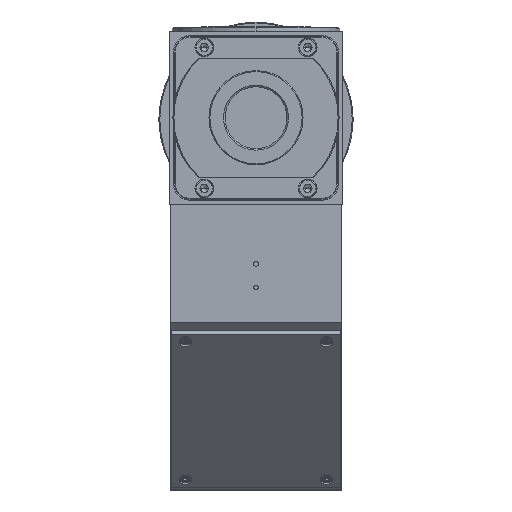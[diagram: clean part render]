
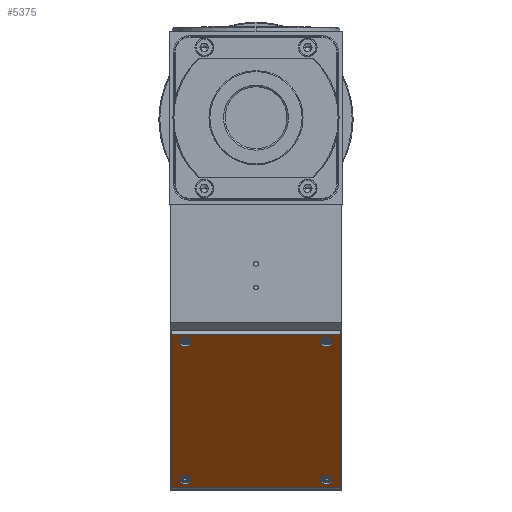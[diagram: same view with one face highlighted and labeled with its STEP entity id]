
A CAD part, top view. The second image highlights one B-rep face of the part: STEP entity #5375.
In plain terms, the highlighted planar face has unit normal (0, -0.707, 0.707).
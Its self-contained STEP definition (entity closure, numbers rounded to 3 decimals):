
#315 = DIRECTION ( 'NONE',  ( 0., -0.707, 0.707 ) ) ;
#334 = DIRECTION ( 'NONE',  ( 0., -0.707, 0.707 ) ) ;
#482 = CARTESIAN_POINT ( 'NONE',  ( 27., -69.003, -92.931 ) ) ;
#508 = EDGE_CURVE ( 'NONE', #30410, #24710, #17824, .T. ) ;
#918 = VERTEX_POINT ( 'NONE', #31000 ) ;
#1698 = DIRECTION ( 'NONE',  ( 1., 0., 0. ) ) ;
#2011 = VERTEX_POINT ( 'NONE', #10048 ) ;
#2698 = VERTEX_POINT ( 'NONE', #24981 ) ;
#3328 = AXIS2_PLACEMENT_3D ( 'NONE', #20477, #334, #25410 ) ;
#3691 = AXIS2_PLACEMENT_3D ( 'NONE', #8901, #31595, #11483 ) ;
#3809 = CIRCLE ( 'NONE', #29147, 2. ) ;
#4270 = DIRECTION ( 'NONE',  ( 0., -0.707, -0.707 ) ) ;
#4459 = LINE ( 'NONE', #27147, #24401 ) ;
#4603 = EDGE_CURVE ( 'NONE', #34075, #12905, #11687, .T. ) ;
#4932 = FACE_OUTER_BOUND ( 'NONE', #21201, .T. ) ;
#5375 = ADVANCED_FACE ( 'NONE', ( #32600, #27242, #13216, #10473, #4932 ), #10103, .T. ) ;
#5517 = DIRECTION ( 'NONE',  ( -1., 0., 0. ) ) ;
#5759 = CIRCLE ( 'NONE', #20484, 2. ) ;
#6522 = DIRECTION ( 'NONE',  ( 1., 0., 0. ) ) ;
#6693 = CARTESIAN_POINT ( 'NONE',  ( 20.5, -71.477, -95.406 ) ) ;
#7340 = CARTESIAN_POINT ( 'NONE',  ( 0., -93.398, -117.327 ) ) ;
#7354 = AXIS2_PLACEMENT_3D ( 'NONE', #14767, #9245, #20473 ) ;
#7424 = ORIENTED_EDGE ( 'NONE', *, *, #508, .F. ) ;
#7842 = EDGE_CURVE ( 'NONE', #36280, #918, #29724, .T. ) ;
#7957 = VERTEX_POINT ( 'NONE', #22107 ) ;
#7995 = CARTESIAN_POINT ( 'NONE',  ( 20.5, -115.318, -139.247 ) ) ;
#8610 = VERTEX_POINT ( 'NONE', #482 ) ;
#8901 = CARTESIAN_POINT ( 'NONE',  ( 22.5, -115.318, -139.247 ) ) ;
#9245 = DIRECTION ( 'NONE',  ( 0., -0.707, 0.707 ) ) ;
#9435 = EDGE_CURVE ( 'NONE', #25434, #15147, #35159, .T. ) ;
#9461 = AXIS2_PLACEMENT_3D ( 'NONE', #14251, #14437, #6522 ) ;
#10048 = CARTESIAN_POINT ( 'NONE',  ( -27., -117.793, -141.722 ) ) ;
#10103 = PLANE ( 'NONE',  #19951 ) ;
#10473 = FACE_BOUND ( 'NONE', #35254, .T. ) ;
#10653 = CARTESIAN_POINT ( 'NONE',  ( 27., -69.003, -92.931 ) ) ;
#11433 = LINE ( 'NONE', #19897, #18459 ) ;
#11483 = DIRECTION ( 'NONE',  ( 1., 0., 0. ) ) ;
#11625 = DIRECTION ( 'NONE',  ( 1., 0., 0. ) ) ;
#11687 = CIRCLE ( 'NONE', #24033, 2. ) ;
#12120 = DIRECTION ( 'NONE',  ( 1., 0., 0. ) ) ;
#12628 = ORIENTED_EDGE ( 'NONE', *, *, #28972, .F. ) ;
#12905 = VERTEX_POINT ( 'NONE', #34283 ) ;
#13216 = FACE_BOUND ( 'NONE', #21966, .T. ) ;
#14251 = CARTESIAN_POINT ( 'NONE',  ( -22.5, -115.318, -139.247 ) ) ;
#14437 = DIRECTION ( 'NONE',  ( 0., -0.707, 0.707 ) ) ;
#14471 = ORIENTED_EDGE ( 'NONE', *, *, #4603, .F. ) ;
#14767 = CARTESIAN_POINT ( 'NONE',  ( -22.5, -115.318, -139.247 ) ) ;
#14934 = DIRECTION ( 'NONE',  ( 0., -0.707, 0.707 ) ) ;
#15147 = VERTEX_POINT ( 'NONE', #23021 ) ;
#15609 = EDGE_CURVE ( 'NONE', #15147, #25434, #18622, .T. ) ;
#16248 = CARTESIAN_POINT ( 'NONE',  ( -20.5, -71.477, -95.406 ) ) ;
#16256 = CARTESIAN_POINT ( 'NONE',  ( -22.5, -71.477, -95.406 ) ) ;
#16847 = DIRECTION ( 'NONE',  ( 1., 0., 0. ) ) ;
#17824 = CIRCLE ( 'NONE', #3691, 2. ) ;
#18459 = VECTOR ( 'NONE', #11625, 1000. ) ;
#18622 = CIRCLE ( 'NONE', #32203, 2. ) ;
#18808 = EDGE_CURVE ( 'NONE', #2698, #8610, #26877, .T. ) ;
#19402 = ORIENTED_EDGE ( 'NONE', *, *, #18808, .T. ) ;
#19476 = EDGE_CURVE ( 'NONE', #24710, #30410, #3809, .T. ) ;
#19519 = LINE ( 'NONE', #30793, #21588 ) ;
#19897 = CARTESIAN_POINT ( 'NONE',  ( -27., -117.793, -141.722 ) ) ;
#19951 = AXIS2_PLACEMENT_3D ( 'NONE', #7340, #27435, #21689 ) ;
#20473 = DIRECTION ( 'NONE',  ( 1., 0., 0. ) ) ;
#20477 = CARTESIAN_POINT ( 'NONE',  ( 22.5, -71.477, -95.406 ) ) ;
#20484 = AXIS2_PLACEMENT_3D ( 'NONE', #35073, #23612, #16847 ) ;
#20516 = ORIENTED_EDGE ( 'NONE', *, *, #9435, .F. ) ;
#20647 = CARTESIAN_POINT ( 'NONE',  ( 22.5, -115.318, -139.247 ) ) ;
#21130 = ORIENTED_EDGE ( 'NONE', *, *, #15609, .F. ) ;
#21201 = EDGE_LOOP ( 'NONE', ( #28757, #24530, #19402, #26059 ) ) ;
#21259 = EDGE_CURVE ( 'NONE', #8610, #7957, #19519, .T. ) ;
#21588 = VECTOR ( 'NONE', #5517, 1000. ) ;
#21689 = DIRECTION ( 'NONE',  ( 1., 0., 0. ) ) ;
#21966 = EDGE_LOOP ( 'NONE', ( #33091, #7424 ) ) ;
#22104 = EDGE_CURVE ( 'NONE', #12905, #34075, #5759, .T. ) ;
#22107 = CARTESIAN_POINT ( 'NONE',  ( -27., -69.003, -92.931 ) ) ;
#22984 = CIRCLE ( 'NONE', #9461, 2. ) ;
#23021 = CARTESIAN_POINT ( 'NONE',  ( 24.5, -71.477, -95.406 ) ) ;
#23612 = DIRECTION ( 'NONE',  ( 0., -0.707, 0.707 ) ) ;
#24033 = AXIS2_PLACEMENT_3D ( 'NONE', #16256, #29737, #1698 ) ;
#24401 = VECTOR ( 'NONE', #4270, 1000. ) ;
#24530 = ORIENTED_EDGE ( 'NONE', *, *, #33011, .T. ) ;
#24710 = VERTEX_POINT ( 'NONE', #27063 ) ;
#24981 = CARTESIAN_POINT ( 'NONE',  ( 27., -117.793, -141.722 ) ) ;
#25410 = DIRECTION ( 'NONE',  ( 1., 0., 0. ) ) ;
#25434 = VERTEX_POINT ( 'NONE', #6693 ) ;
#26059 = ORIENTED_EDGE ( 'NONE', *, *, #21259, .T. ) ;
#26877 = LINE ( 'NONE', #10653, #35023 ) ;
#27063 = CARTESIAN_POINT ( 'NONE',  ( 24.5, -115.318, -139.247 ) ) ;
#27147 = CARTESIAN_POINT ( 'NONE',  ( -27., -69.003, -92.931 ) ) ;
#27242 = FACE_BOUND ( 'NONE', #28720, .T. ) ;
#27435 = DIRECTION ( 'NONE',  ( 0., -0.707, 0.707 ) ) ;
#28707 = ORIENTED_EDGE ( 'NONE', *, *, #7842, .F. ) ;
#28720 = EDGE_LOOP ( 'NONE', ( #21130, #20516 ) ) ;
#28757 = ORIENTED_EDGE ( 'NONE', *, *, #33919, .T. ) ;
#28972 = EDGE_CURVE ( 'NONE', #918, #36280, #22984, .T. ) ;
#29147 = AXIS2_PLACEMENT_3D ( 'NONE', #20647, #14934, #32473 ) ;
#29489 = EDGE_LOOP ( 'NONE', ( #14471, #32715 ) ) ;
#29724 = CIRCLE ( 'NONE', #7354, 2. ) ;
#29737 = DIRECTION ( 'NONE',  ( 0., -0.707, 0.707 ) ) ;
#30410 = VERTEX_POINT ( 'NONE', #7995 ) ;
#30793 = CARTESIAN_POINT ( 'NONE',  ( -27., -69.003, -92.931 ) ) ;
#31000 = CARTESIAN_POINT ( 'NONE',  ( -24.5, -115.318, -139.247 ) ) ;
#31298 = CARTESIAN_POINT ( 'NONE',  ( 22.5, -71.477, -95.406 ) ) ;
#31595 = DIRECTION ( 'NONE',  ( 0., -0.707, 0.707 ) ) ;
#32203 = AXIS2_PLACEMENT_3D ( 'NONE', #31298, #315, #12120 ) ;
#32363 = CARTESIAN_POINT ( 'NONE',  ( -20.5, -115.318, -139.247 ) ) ;
#32473 = DIRECTION ( 'NONE',  ( 1., 0., 0. ) ) ;
#32598 = DIRECTION ( 'NONE',  ( 0., 0.707, 0.707 ) ) ;
#32600 = FACE_BOUND ( 'NONE', #29489, .T. ) ;
#32715 = ORIENTED_EDGE ( 'NONE', *, *, #22104, .F. ) ;
#33011 = EDGE_CURVE ( 'NONE', #2011, #2698, #11433, .T. ) ;
#33091 = ORIENTED_EDGE ( 'NONE', *, *, #19476, .F. ) ;
#33919 = EDGE_CURVE ( 'NONE', #7957, #2011, #4459, .T. ) ;
#34075 = VERTEX_POINT ( 'NONE', #16248 ) ;
#34283 = CARTESIAN_POINT ( 'NONE',  ( -24.5, -71.477, -95.406 ) ) ;
#35023 = VECTOR ( 'NONE', #32598, 1000. ) ;
#35073 = CARTESIAN_POINT ( 'NONE',  ( -22.5, -71.477, -95.406 ) ) ;
#35159 = CIRCLE ( 'NONE', #3328, 2. ) ;
#35254 = EDGE_LOOP ( 'NONE', ( #28707, #12628 ) ) ;
#36280 = VERTEX_POINT ( 'NONE', #32363 ) ;
